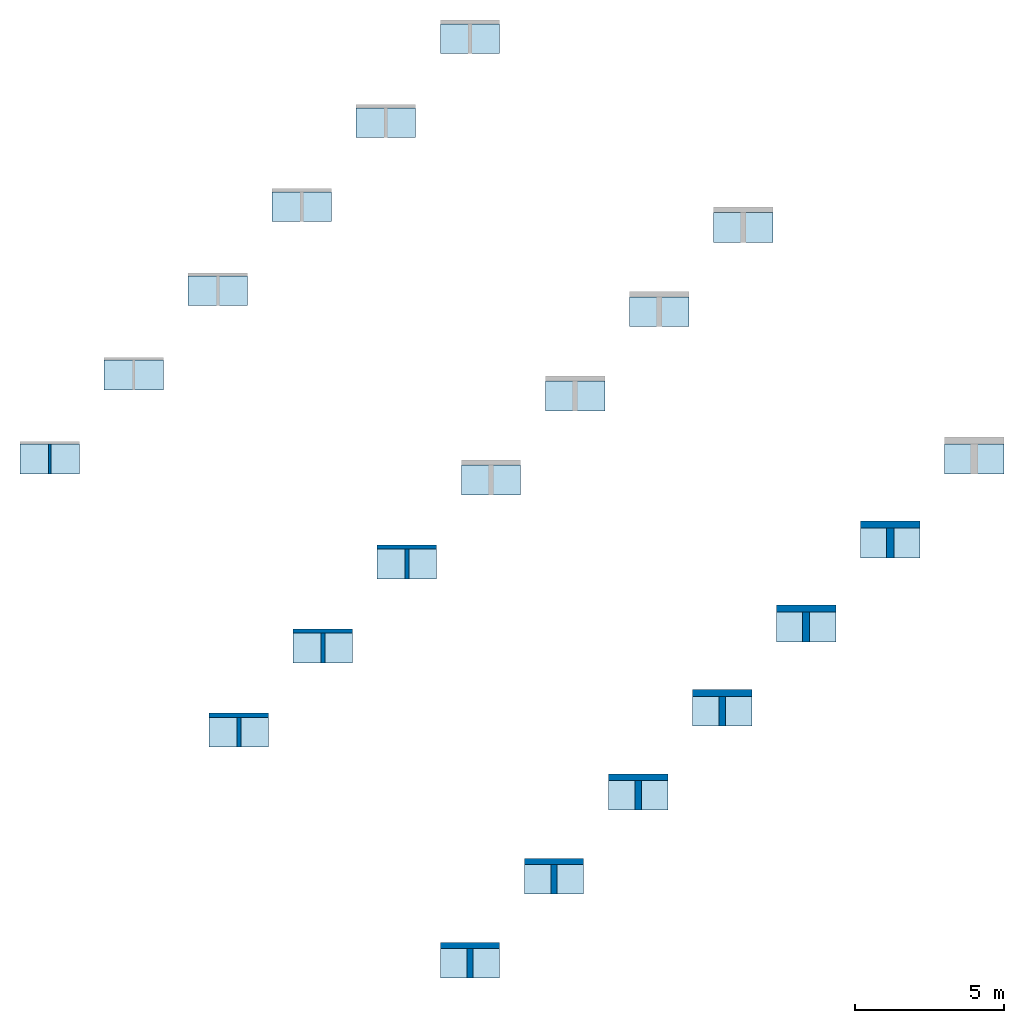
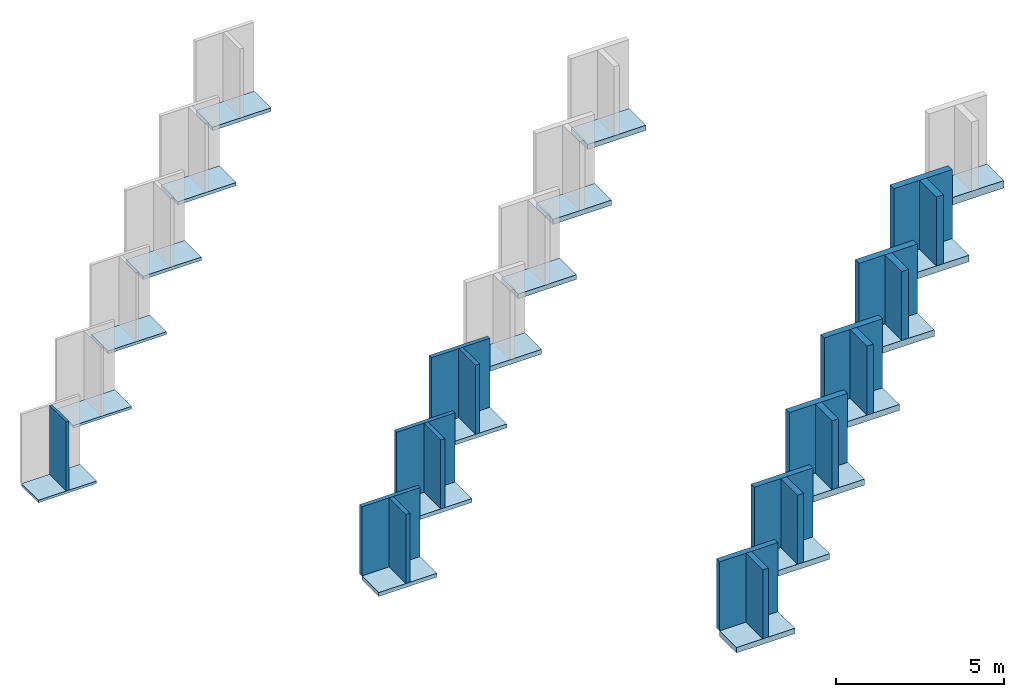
# One storey, part 1 of 2: 20 slabs, 19 walls.
"""IFC2X3 building model written with IfcOpenShell, lengths in millimetres."""

from ifc_helpers import new_model, entity, si_unit, converted_unit, derived_unit, direction, frame, frame_2d, origin, origin_2d_with_axis, place, context, subcontext, project, spatial, rectangle, extrude, material, layer, layer_set, layer_usage, type_object, element, save


model = new_model("IFC2X3")

# Units and contexts
model_context = context("Model", 3, precision=0.01, world=origin(), true_north=direction((6.12303176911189e-17, 1.0)))
context_of_model = context(None, 3, precision=0.01, world=origin(), true_north=direction((6.12303176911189e-17, 1.0)))
body_context = subcontext(model_context, "Body", "Model", "MODEL_VIEW")
ifc_project = project(units=[si_unit("LENGTHUNIT", "METRE", prefix="MILLI"), si_unit("AREAUNIT", "SQUARE_METRE"), si_unit("VOLUMEUNIT", "CUBIC_METRE"), converted_unit("PLANEANGLEUNIT", "DEGREE", entity("IfcRatioMeasure", 0.0174532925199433), si_unit("PLANEANGLEUNIT", "RADIAN"), dimensions=[0, 0, 0, 0, 0, 0, 0]), si_unit("MASSUNIT", "GRAM", prefix="KILO"), derived_unit("MASSDENSITYUNIT", [(si_unit("MASSUNIT", "GRAM", prefix="KILO"), 1), (si_unit("LENGTHUNIT", "METRE"), -3)]), si_unit("TIMEUNIT", "SECOND"), si_unit("FREQUENCYUNIT", "HERTZ"), si_unit("THERMODYNAMICTEMPERATUREUNIT", "DEGREE_CELSIUS"), derived_unit("THERMALTRANSMITTANCEUNIT", [(si_unit("MASSUNIT", "GRAM", prefix="KILO"), 1), (si_unit("THERMODYNAMICTEMPERATUREUNIT", "KELVIN"), -1), (si_unit("TIMEUNIT", "SECOND"), -3)]), derived_unit("VOLUMETRICFLOWRATEUNIT", [(si_unit("LENGTHUNIT", "METRE"), 3), (si_unit("TIMEUNIT", "SECOND"), -1)]), si_unit("ELECTRICCURRENTUNIT", "AMPERE"), si_unit("ELECTRICVOLTAGEUNIT", "VOLT"), si_unit("POWERUNIT", "WATT"), si_unit("FORCEUNIT", "NEWTON", prefix="KILO"), si_unit("ILLUMINANCEUNIT", "LUX"), si_unit("LUMINOUSFLUXUNIT", "LUMEN"), si_unit("LUMINOUSINTENSITYUNIT", "CANDELA"), derived_unit("USERDEFINED", [(si_unit("MASSUNIT", "GRAM", prefix="KILO"), -1), (si_unit("LENGTHUNIT", "METRE"), -2), (si_unit("TIMEUNIT", "SECOND"), 3), (si_unit("LUMINOUSFLUXUNIT", "LUMEN"), 1)]), derived_unit("LINEARVELOCITYUNIT", [(si_unit("LENGTHUNIT", "METRE"), 1), (si_unit("TIMEUNIT", "SECOND"), -1)]), si_unit("PRESSUREUNIT", "PASCAL"), derived_unit("USERDEFINED", [(si_unit("LENGTHUNIT", "METRE"), -2), (si_unit("MASSUNIT", "GRAM", prefix="KILO"), 1), (si_unit("TIMEUNIT", "SECOND"), -2)])], contexts=[model_context, context_of_model])

# Site, building, storey
site_placement = place(None, origin())
site = spatial("IfcSite", under=ifc_project, at=site_placement, Name="Default", CompositionType="ELEMENT")
building_placement = place(site_placement, origin())
building = spatial("IfcBuilding", under=site, at=building_placement, CompositionType="ELEMENT")
storey_placement = place(building_placement, origin())
storey = spatial("IfcBuildingStorey", under=building, at=storey_placement, Name="Begane grond", CompositionType="ELEMENT", Elevation=0.0)

# Slabs
ifc_material = material(Name="Knauf Insulation_Ecose® glaswol_naturoll 035")
ifc_layer_1 = layer(ifc_material, 90.0)
ifc_layer_set_1 = layer_set([ifc_layer_1], Name="Floor:NLRS_23_FL_Naturoll 035_90x380x7600mm")
ifc_layer_usage_1 = layer_usage(ifc_layer_set_1, "AXIS3", "POSITIVE", 0.0)
slab_type_1 = type_object("IfcSlabType", Name="Floor:NLRS_23_FL_Naturoll 035_90x380x7600mm", PredefinedType="FLOOR", material=ifc_layer_set_1)
slab_1_placement = place(storey_placement, origin())
element("IfcSlab", 1, at=slab_1_placement, inside=storey, type_object=slab_type_1, material=ifc_layer_usage_1, Name="Floor:NLRS_23_FL_Naturoll 035_90x380x7600mm", ObjectType="Floor:NLRS_23_FL_Naturoll 035_90x380x7600mm", PredefinedType="FLOOR", context=body_context, shape_type="SweptSolid", body=[
    extrude(rectangle(XDim=1000.0, YDim=2000.0, at=frame_2d((0.0, -1.70530256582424e-13), x_axis=(1.0, 0.0))), frame((-2133.09589603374, 5360.807761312, 0.0), z_axis=(0.0, 0.0, -1.0), x_axis=(0.0, 1.0, 0.0)), (0.0, 0.0, 1.0), 90.0),
])
ifc_layer_2 = layer(ifc_material, 90.0)
ifc_layer_set_2 = layer_set([ifc_layer_2], Name="Floor:NLRS_23_FL_Naturoll 035_90x580x7600mm")
ifc_layer_usage_2 = layer_usage(ifc_layer_set_2, "AXIS3", "POSITIVE", 0.0)
slab_type_2 = type_object("IfcSlabType", Name="Floor:NLRS_23_FL_Naturoll 035_90x580x7600mm", PredefinedType="FLOOR", material=ifc_layer_set_2)
slab_2_placement = place(storey_placement, origin())
element("IfcSlab", 2, at=slab_2_placement, inside=storey, type_object=slab_type_2, material=ifc_layer_usage_2, Name="Floor:NLRS_23_FL_Naturoll 035_90x580x7600mm", ObjectType="Floor:NLRS_23_FL_Naturoll 035_90x580x7600mm", PredefinedType="FLOOR", context=body_context, shape_type="SweptSolid", body=[
    extrude(rectangle(XDim=1000.0, YDim=2000.0, at=origin_2d_with_axis()), frame((695.33122871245, 8189.23488605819, 0.0), z_axis=(0.0, 0.0, -1.0), x_axis=(0.0, 1.0, 0.0)), (0.0, 0.0, 1.0), 90.0),
])
ifc_layer_3 = layer(ifc_material, 100.0)
ifc_layer_set_3 = layer_set([ifc_layer_3], Name="Floor:NLRS_23_FL_Naturoll 035_100x580x7400mm")
ifc_layer_usage_3 = layer_usage(ifc_layer_set_3, "AXIS3", "POSITIVE", 0.0)
slab_type_3 = type_object("IfcSlabType", Name="Floor:NLRS_23_FL_Naturoll 035_100x580x7400mm", PredefinedType="FLOOR", material=ifc_layer_set_3)
slab_3_placement = place(storey_placement, origin())
element("IfcSlab", 3, at=slab_3_placement, inside=storey, type_object=slab_type_3, material=ifc_layer_usage_3, Name="Floor:NLRS_23_FL_Naturoll 035_100x580x7400mm", ObjectType="Floor:NLRS_23_FL_Naturoll 035_100x580x7400mm", PredefinedType="FLOOR", context=body_context, shape_type="SweptSolid", body=[
    extrude(rectangle(XDim=1000.0, YDim=2000.0, at=frame_2d((1.08002495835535e-12, 0.0), x_axis=(1.0, 0.0))), frame((3523.75835345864, 11017.6620108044, 0.0), z_axis=(0.0, 0.0, -1.0), x_axis=(0.0, 1.0, 0.0)), (0.0, 0.0, 1.0), 100.0),
])
ifc_layer_4 = layer(ifc_material, 120.0)
ifc_layer_set_4 = layer_set([ifc_layer_4], Name="Floor:NLRS_23_FL_Naturoll 035_120x380x6200mm")
ifc_layer_usage_4 = layer_usage(ifc_layer_set_4, "AXIS3", "POSITIVE", 0.0)
slab_type_4 = type_object("IfcSlabType", Name="Floor:NLRS_23_FL_Naturoll 035_120x380x6200mm", PredefinedType="FLOOR", material=ifc_layer_set_4)
slab_4_placement = place(storey_placement, origin())
element("IfcSlab", 4, at=slab_4_placement, inside=storey, type_object=slab_type_4, material=ifc_layer_usage_4, Name="Floor:NLRS_23_FL_Naturoll 035_120x380x6200mm", ObjectType="Floor:NLRS_23_FL_Naturoll 035_120x380x6200mm", PredefinedType="FLOOR", context=body_context, shape_type="SweptSolid", body=[
    extrude(rectangle(XDim=1000.0, YDim=2000.0, at=frame_2d((-1.08002495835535e-12, 0.0), x_axis=(1.0, 0.0))), frame((6352.18547820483, 13846.0891355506, 0.0), z_axis=(0.0, 0.0, -1.0), x_axis=(0.0, 1.0, 0.0)), (0.0, 0.0, 1.0), 120.0),
])
ifc_layer_5 = layer(ifc_material, 120.0)
ifc_layer_set_5 = layer_set([ifc_layer_5], Name="Floor:NLRS_23_FL_Naturoll 035_120x580x6200mm")
ifc_layer_usage_5 = layer_usage(ifc_layer_set_5, "AXIS3", "POSITIVE", 0.0)
slab_type_5 = type_object("IfcSlabType", Name="Floor:NLRS_23_FL_Naturoll 035_120x580x6200mm", PredefinedType="FLOOR", material=ifc_layer_set_5)
slab_5_placement = place(storey_placement, origin())
element("IfcSlab", 5, at=slab_5_placement, inside=storey, type_object=slab_type_5, material=ifc_layer_usage_5, Name="Floor:NLRS_23_FL_Naturoll 035_120x580x6200mm", ObjectType="Floor:NLRS_23_FL_Naturoll 035_120x580x6200mm", PredefinedType="FLOOR", context=body_context, shape_type="SweptSolid", body=[
    extrude(rectangle(XDim=1000.0, YDim=2000.0, at=frame_2d((-1.08002495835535e-12, 5.6843418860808e-13), x_axis=(1.0, 0.0))), frame((9180.61260295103, 16674.5162602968, 0.0), z_axis=(0.0, 0.0, -1.0), x_axis=(0.0, 1.0, 0.0)), (0.0, 0.0, 1.0), 120.0),
])
ifc_layer_6 = layer(ifc_material, 130.0)
ifc_layer_set_6 = layer_set([ifc_layer_6], Name="Floor:NLRS_23_FL_Naturoll 035_130x590x5500mm")
ifc_layer_usage_6 = layer_usage(ifc_layer_set_6, "AXIS3", "POSITIVE", 0.0)
slab_type_6 = type_object("IfcSlabType", Name="Floor:NLRS_23_FL_Naturoll 035_130x590x5500mm", PredefinedType="FLOOR", material=ifc_layer_set_6)
slab_6_placement = place(storey_placement, origin())
element("IfcSlab", 6, at=slab_6_placement, inside=storey, type_object=slab_type_6, material=ifc_layer_usage_6, Name="Floor:NLRS_23_FL_Naturoll 035_130x590x5500mm", ObjectType="Floor:NLRS_23_FL_Naturoll 035_130x590x5500mm", PredefinedType="FLOOR", context=body_context, shape_type="SweptSolid", body=[
    extrude(rectangle(XDim=1000.0, YDim=2000.0, at=frame_2d((-1.08002495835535e-12, 0.0), x_axis=(1.0, 0.0))), frame((12009.0397276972, 19502.9433850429, 0.0), z_axis=(0.0, 0.0, -1.0), x_axis=(0.0, 1.0, 0.0)), (0.0, 0.0, 1.0), 130.0),
])
ifc_layer_7 = layer(ifc_material, 140.0)
ifc_layer_set_7 = layer_set([ifc_layer_7], Name="Floor:NLRS_23_FL_Naturoll 035_140x380x5300mm")
ifc_layer_usage_7 = layer_usage(ifc_layer_set_7, "AXIS3", "POSITIVE", 0.0)
slab_type_7 = type_object("IfcSlabType", Name="Floor:NLRS_23_FL_Naturoll 035_140x380x5300mm", PredefinedType="FLOOR", material=ifc_layer_set_7)
slab_7_placement = place(storey_placement, origin())
element("IfcSlab", 7, at=slab_7_placement, inside=storey, type_object=slab_type_7, material=ifc_layer_usage_7, Name="Floor:NLRS_23_FL_Naturoll 035_140x380x5300mm", ObjectType="Floor:NLRS_23_FL_Naturoll 035_140x380x5300mm", PredefinedType="FLOOR", context=body_context, shape_type="SweptSolid", body=[
    extrude(rectangle(XDim=1000.0, YDim=2000.0, at=frame_2d((0.0, 2.8421709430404e-13), x_axis=(1.0, 0.0))), frame((4230.86513464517, -3831.58039411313, 0.0), z_axis=(0.0, 0.0, -1.0), x_axis=(0.0, 1.0, 0.0)), (0.0, 0.0, 1.0), 140.0),
])
ifc_layer_8 = layer(ifc_material, 140.0)
ifc_layer_set_8 = layer_set([ifc_layer_8], Name="Floor:NLRS_23_FL_Naturoll 035_140x580x5300mm")
ifc_layer_usage_8 = layer_usage(ifc_layer_set_8, "AXIS3", "POSITIVE", 0.0)
slab_type_8 = type_object("IfcSlabType", Name="Floor:NLRS_23_FL_Naturoll 035_140x580x5300mm", PredefinedType="FLOOR", material=ifc_layer_set_8)
slab_8_placement = place(storey_placement, origin())
element("IfcSlab", 8, at=slab_8_placement, inside=storey, type_object=slab_type_8, material=ifc_layer_usage_8, Name="Floor:NLRS_23_FL_Naturoll 035_140x580x5300mm", ObjectType="Floor:NLRS_23_FL_Naturoll 035_140x580x5300mm", PredefinedType="FLOOR", context=body_context, shape_type="SweptSolid", body=[
    extrude(rectangle(XDim=1000.0, YDim=2000.0, at=origin_2d_with_axis()), frame((7059.29225939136, -1003.15326936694, 0.0), z_axis=(0.0, 0.0, -1.0), x_axis=(0.0, 1.0, 0.0)), (0.0, 0.0, 1.0), 140.0),
])
ifc_layer_9 = layer(ifc_material, 140.0)
ifc_layer_set_9 = layer_set([ifc_layer_9], Name="Floor:NLRS_23_FL_Naturoll 035_140x600x5300mm")
ifc_layer_usage_9 = layer_usage(ifc_layer_set_9, "AXIS3", "POSITIVE", 0.0)
slab_type_9 = type_object("IfcSlabType", Name="Floor:NLRS_23_FL_Naturoll 035_140x600x5300mm", PredefinedType="FLOOR", material=ifc_layer_set_9)
slab_9_placement = place(storey_placement, origin())
element("IfcSlab", 9, at=slab_9_placement, inside=storey, type_object=slab_type_9, material=ifc_layer_usage_9, Name="Floor:NLRS_23_FL_Naturoll 035_140x600x5300mm", ObjectType="Floor:NLRS_23_FL_Naturoll 035_140x600x5300mm", PredefinedType="FLOOR", context=body_context, shape_type="SweptSolid", body=[
    extrude(rectangle(XDim=1000.0, YDim=2000.0, at=frame_2d((0.0, 1.08002495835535e-12), x_axis=(1.0, 0.0))), frame((9887.71938413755, 1825.27385537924, 0.0), z_axis=(0.0, 0.0, -1.0), x_axis=(0.0, 1.0, 0.0)), (0.0, 0.0, 1.0), 140.0),
])
ifc_layer_10 = layer(ifc_material, 170.0)
ifc_layer_set_10 = layer_set([ifc_layer_10], Name="Floor:NLRS_23_FL_Naturoll 035_170x380x4350mm")
ifc_layer_usage_10 = layer_usage(ifc_layer_set_10, "AXIS3", "POSITIVE", 0.0)
slab_type_10 = type_object("IfcSlabType", Name="Floor:NLRS_23_FL_Naturoll 035_170x380x4350mm", PredefinedType="FLOOR", material=ifc_layer_set_10)
slab_10_placement = place(storey_placement, origin())
element("IfcSlab", 10, at=slab_10_placement, inside=storey, type_object=slab_type_10, material=ifc_layer_usage_10, Name="Floor:NLRS_23_FL_Naturoll 035_170x380x4350mm", ObjectType="Floor:NLRS_23_FL_Naturoll 035_170x380x4350mm", PredefinedType="FLOOR", context=body_context, shape_type="SweptSolid", body=[
    extrude(rectangle(XDim=1000.0, YDim=2000.0, at=origin_2d_with_axis()), frame((12716.1465088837, 4653.70098012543, 0.0), z_axis=(0.0, 0.0, -1.0), x_axis=(0.0, 1.0, 0.0)), (0.0, 0.0, 1.0), 170.0),
])
ifc_layer_11 = layer(ifc_material, 170.0)
ifc_layer_set_11 = layer_set([ifc_layer_11], Name="Floor:NLRS_23_FL_Naturoll 035_170x580x4350mm")
ifc_layer_usage_11 = layer_usage(ifc_layer_set_11, "AXIS3", "POSITIVE", 0.0)
slab_type_11 = type_object("IfcSlabType", Name="Floor:NLRS_23_FL_Naturoll 035_170x580x4350mm", PredefinedType="FLOOR", material=ifc_layer_set_11)
slab_11_placement = place(storey_placement, origin())
element("IfcSlab", 11, at=slab_11_placement, inside=storey, type_object=slab_type_11, material=ifc_layer_usage_11, Name="Floor:NLRS_23_FL_Naturoll 035_170x580x4350mm", ObjectType="Floor:NLRS_23_FL_Naturoll 035_170x580x4350mm", PredefinedType="FLOOR", context=body_context, shape_type="SweptSolid", body=[
    extrude(rectangle(XDim=1000.0, YDim=2000.0, at=frame_2d((0.0, -1.08002495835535e-12), x_axis=(1.0, 0.0))), frame((15544.5736336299, 7482.12810487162, 0.0), z_axis=(0.0, 0.0, -1.0), x_axis=(0.0, 1.0, 0.0)), (0.0, 0.0, 1.0), 170.0),
])
ifc_layer_12 = layer(ifc_material, 185.0)
ifc_layer_set_12 = layer_set([ifc_layer_12], Name="Floor:NLRS_23_FL_Naturoll 035_185x380x4000mm")
ifc_layer_usage_12 = layer_usage(ifc_layer_set_12, "AXIS3", "POSITIVE", 0.0)
slab_type_12 = type_object("IfcSlabType", Name="Floor:NLRS_23_FL_Naturoll 035_185x380x4000mm", PredefinedType="FLOOR", material=ifc_layer_set_12)
slab_12_placement = place(storey_placement, origin())
element("IfcSlab", 12, at=slab_12_placement, inside=storey, type_object=slab_type_12, material=ifc_layer_usage_12, Name="Floor:NLRS_23_FL_Naturoll 035_185x380x4000mm", ObjectType="Floor:NLRS_23_FL_Naturoll 035_185x380x4000mm", PredefinedType="FLOOR", context=body_context, shape_type="SweptSolid", body=[
    extrude(rectangle(XDim=1000.0, YDim=2000.0, at=frame_2d((1.08002495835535e-12, 0.0), x_axis=(1.0, 0.0))), frame((18373.0007583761, 10310.5552296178, 0.0), z_axis=(0.0, 0.0, -1.0), x_axis=(0.0, 1.0, 0.0)), (0.0, 0.0, 1.0), 185.0),
])
ifc_layer_13 = layer(ifc_material, 200.0)
ifc_layer_set_13 = layer_set([ifc_layer_13], Name="Floor:NLRS_23_FL_Naturoll 035_200x580x3700mm")
ifc_layer_usage_13 = layer_usage(ifc_layer_set_13, "AXIS3", "POSITIVE", 0.0)
slab_type_13 = type_object("IfcSlabType", Name="Floor:NLRS_23_FL_Naturoll 035_200x580x3700mm", PredefinedType="FLOOR", material=ifc_layer_set_13)
slab_13_placement = place(storey_placement, origin())
element("IfcSlab", 13, at=slab_13_placement, inside=storey, type_object=slab_type_13, material=ifc_layer_usage_13, Name="Floor:NLRS_23_FL_Naturoll 035_200x580x3700mm", ObjectType="Floor:NLRS_23_FL_Naturoll 035_200x580x3700mm", PredefinedType="FLOOR", context=body_context, shape_type="SweptSolid", body=[
    extrude(rectangle(XDim=1000.0, YDim=2000.0, at=frame_2d((0.0, -1.08002495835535e-12), x_axis=(1.0, 0.0))), frame((14837.4668524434, -8781.32786241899, 0.0), z_axis=(0.0, 0.0, -1.0), x_axis=(0.0, 1.0, 0.0)), (0.0, 0.0, 1.0), 200.0),
])
ifc_layer_14 = layer(ifc_material, 220.0)
ifc_layer_set_14 = layer_set([ifc_layer_14], Name="Floor:NLRS_23_FL_Naturoll 035_220x380x3400mm")
ifc_layer_usage_14 = layer_usage(ifc_layer_set_14, "AXIS3", "POSITIVE", 0.0)
slab_type_14 = type_object("IfcSlabType", Name="Floor:NLRS_23_FL_Naturoll 035_220x380x3400mm", PredefinedType="FLOOR", material=ifc_layer_set_14)
slab_14_placement = place(storey_placement, origin())
element("IfcSlab", 14, at=slab_14_placement, inside=storey, type_object=slab_type_14, material=ifc_layer_usage_14, Name="Floor:NLRS_23_FL_Naturoll 035_220x380x3400mm", ObjectType="Floor:NLRS_23_FL_Naturoll 035_220x380x3400mm", PredefinedType="FLOOR", context=body_context, shape_type="SweptSolid", body=[
    extrude(rectangle(XDim=1000.0, YDim=2000.0, at=frame_2d((0.0, 2.1600499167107e-12), x_axis=(1.0, 0.0))), frame((17665.8939771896, -5952.9007376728, 0.0), z_axis=(0.0, 0.0, -1.0), x_axis=(0.0, 1.0, 0.0)), (0.0, 0.0, 1.0), 220.0),
])
ifc_layer_15 = layer(ifc_material, 220.0)
ifc_layer_set_15 = layer_set([ifc_layer_15], Name="Floor:NLRS_23_FL_Naturoll 035_220x580x3400mm")
ifc_layer_usage_15 = layer_usage(ifc_layer_set_15, "AXIS3", "POSITIVE", 0.0)
slab_type_15 = type_object("IfcSlabType", Name="Floor:NLRS_23_FL_Naturoll 035_220x580x3400mm", PredefinedType="FLOOR", material=ifc_layer_set_15)
slab_15_placement = place(storey_placement, origin())
element("IfcSlab", 15, at=slab_15_placement, inside=storey, type_object=slab_type_15, material=ifc_layer_usage_15, Name="Floor:NLRS_23_FL_Naturoll 035_220x580x3400mm", ObjectType="Floor:NLRS_23_FL_Naturoll 035_220x580x3400mm", PredefinedType="FLOOR", context=body_context, shape_type="SweptSolid", body=[
    extrude(rectangle(XDim=1000.0, YDim=2000.0, at=frame_2d((0.0, -2.1600499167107e-12), x_axis=(1.0, 0.0))), frame((20494.3211019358, -3124.47361292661, 0.0), z_axis=(0.0, 0.0, -1.0), x_axis=(0.0, 1.0, 0.0)), (0.0, 0.0, 1.0), 220.0),
])
ifc_layer_16 = layer(ifc_material, 235.0)
ifc_layer_set_16 = layer_set([ifc_layer_16], Name="Floor:NLRS_23_FL_Naturoll 035_235x580x3100mm")
ifc_layer_usage_16 = layer_usage(ifc_layer_set_16, "AXIS3", "POSITIVE", 0.0)
slab_type_16 = type_object("IfcSlabType", Name="Floor:NLRS_23_FL_Naturoll 035_235x580x3100mm", PredefinedType="FLOOR", material=ifc_layer_set_16)
slab_16_placement = place(storey_placement, origin())
element("IfcSlab", 16, at=slab_16_placement, inside=storey, type_object=slab_type_16, material=ifc_layer_usage_16, Name="Floor:NLRS_23_FL_Naturoll 035_235x580x3100mm", ObjectType="Floor:NLRS_23_FL_Naturoll 035_235x580x3100mm", PredefinedType="FLOOR", context=body_context, shape_type="SweptSolid", body=[
    extrude(rectangle(XDim=1000.0, YDim=2000.0, at=frame_2d((0.0, -2.1600499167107e-12), x_axis=(1.0, 0.0))), frame((23322.748226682, -296.046488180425, 0.0), z_axis=(0.0, 0.0, -1.0), x_axis=(0.0, 1.0, 0.0)), (0.0, 0.0, 1.0), 235.0),
])
ifc_layer_17 = layer(ifc_material, 240.0)
ifc_layer_set_17 = layer_set([ifc_layer_17], Name="Floor:NLRS_23_FL_Naturoll 035_240x580x3100mm")
ifc_layer_usage_17 = layer_usage(ifc_layer_set_17, "AXIS3", "POSITIVE", 0.0)
slab_type_17 = type_object("IfcSlabType", Name="Floor:NLRS_23_FL_Naturoll 035_240x580x3100mm", PredefinedType="FLOOR", material=ifc_layer_set_17)
slab_17_placement = place(storey_placement, origin())
element("IfcSlab", 17, at=slab_17_placement, inside=storey, type_object=slab_type_17, material=ifc_layer_usage_17, Name="Floor:NLRS_23_FL_Naturoll 035_240x580x3100mm", ObjectType="Floor:NLRS_23_FL_Naturoll 035_240x580x3100mm", PredefinedType="FLOOR", context=body_context, shape_type="SweptSolid", body=[
    extrude(rectangle(XDim=1000.0, YDim=2000.0, at=frame_2d((0.0, -2.1600499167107e-12), x_axis=(1.0, 0.0))), frame((26151.1753514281, 2532.38063656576, 0.0), z_axis=(0.0, 0.0, -1.0), x_axis=(0.0, 1.0, 0.0)), (0.0, 0.0, 1.0), 240.0),
])
ifc_layer_18 = layer(ifc_material, 270.0)
ifc_layer_set_18 = layer_set([ifc_layer_18], Name="Floor:NLRS_23_FL_Naturoll 035_270x590x3100mm")
ifc_layer_usage_18 = layer_usage(ifc_layer_set_18, "AXIS3", "POSITIVE", 0.0)
slab_type_18 = type_object("IfcSlabType", Name="Floor:NLRS_23_FL_Naturoll 035_270x590x3100mm", PredefinedType="FLOOR", material=ifc_layer_set_18)
slab_18_placement = place(storey_placement, origin())
element("IfcSlab", 18, at=slab_18_placement, inside=storey, type_object=slab_type_18, material=ifc_layer_usage_18, Name="Floor:NLRS_23_FL_Naturoll 035_270x590x3100mm", ObjectType="Floor:NLRS_23_FL_Naturoll 035_270x590x3100mm", PredefinedType="FLOOR", context=body_context, shape_type="SweptSolid", body=[
    extrude(rectangle(XDim=1000.0, YDim=2000.0, at=frame_2d((0.0, 2.1600499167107e-12), x_axis=(1.0, 0.0))), frame((28979.6024761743, 5360.80776131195, 0.0), z_axis=(0.0, 0.0, -1.0), x_axis=(0.0, 1.0, 0.0)), (0.0, 0.0, 1.0), 270.0),
])
ifc_layer_19 = layer(ifc_material, 195.0)
ifc_layer_set_19 = layer_set([ifc_layer_19], Name="Floor:NLRS_23_FL_Naturoll 035_195x580x3800mm")
ifc_layer_usage_19 = layer_usage(ifc_layer_set_19, "AXIS3", "POSITIVE", 0.0)
slab_type_19 = type_object("IfcSlabType", Name="Floor:NLRS_23_FL_Naturoll 035_195x580x3800mm", PredefinedType="FLOOR", material=ifc_layer_set_19)
slab_19_placement = place(storey_placement, origin())
element("IfcSlab", 19, at=slab_19_placement, inside=storey, type_object=slab_type_19, material=ifc_layer_usage_19, Name="Floor:NLRS_23_FL_Naturoll 035_195x580x3800mm", ObjectType="Floor:NLRS_23_FL_Naturoll 035_195x580x3800mm", PredefinedType="FLOOR", context=body_context, shape_type="SweptSolid", body=[
    extrude(rectangle(XDim=1000.0, YDim=2000.0, at=frame_2d((1.08002495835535e-12, 1.08002495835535e-12), x_axis=(1.0, 0.0))), frame((12009.0397276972, -11609.7549871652, 0.0), z_axis=(0.0, 0.0, -1.0), x_axis=(0.0, 1.0, 0.0)), (0.0, 0.0, 1.0), 195.0),
])
ifc_layer_20 = layer(ifc_material, 185.0)
ifc_layer_set_20 = layer_set([ifc_layer_20], Name="Floor:NLRS_23_FL_Naturoll 035_185x580x4000mm")
ifc_layer_usage_20 = layer_usage(ifc_layer_set_20, "AXIS3", "POSITIVE", 0.0)
slab_type_20 = type_object("IfcSlabType", Name="Floor:NLRS_23_FL_Naturoll 035_185x580x4000mm", PredefinedType="FLOOR", material=ifc_layer_set_20)
slab_20_placement = place(storey_placement, origin())
element("IfcSlab", 20, at=slab_20_placement, inside=storey, type_object=slab_type_20, material=ifc_layer_usage_20, Name="Floor:NLRS_23_FL_Naturoll 035_185x580x4000mm", ObjectType="Floor:NLRS_23_FL_Naturoll 035_185x580x4000mm", PredefinedType="FLOOR", context=body_context, shape_type="SweptSolid", body=[
    extrude(rectangle(XDim=1000.0, YDim=2000.0, at=frame_2d((1.08002495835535e-12, -2.1600499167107e-12), x_axis=(1.0, 0.0))), frame((21201.4278831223, 13153.982354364, 0.0), z_axis=(0.0, 0.0, -1.0), x_axis=(0.0, 1.0, 0.0)), (0.0, 0.0, 1.0), 185.0),
])

# Walls
ifc_layer_21 = layer(ifc_material, 90.0)
ifc_layer_set_21 = layer_set([ifc_layer_21], Name="Basic Wall:NLRS_21_WA_Naturoll 035_90x380x7600mm")
ifc_layer_usage_21 = layer_usage(ifc_layer_set_21, "AXIS2", "NEGATIVE", 45.0)
wall_type_1 = type_object("IfcWallType", Name="Basic Wall:NLRS_21_WA_Naturoll 035_90x380x7600mm", PredefinedType="STANDARD", material=ifc_layer_set_21)
wall_1_placement = place(storey_placement, frame((-2133.09589603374, 5860.807761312, 0.0), z_axis=(0.0, 0.0, 1.0), x_axis=(0.0, -1.0, 0.0)))
element("IfcWallStandardCase", 21, at=wall_1_placement, inside=storey, type_object=wall_type_1, material=ifc_layer_usage_21, Name="Basic Wall:NLRS_21_WA_Naturoll 035_90x380x7600mm", ObjectType="Basic Wall:NLRS_21_WA_Naturoll 035_90x380x7600mm", context=body_context, shape_type="SweptSolid", body=[
    extrude(rectangle(XDim=1000.0, YDim=90.0000000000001, at=frame_2d((500.0, 0.0), x_axis=(-1.0, 0.0))), origin(), (0.0, 0.0, 1.0), 2500.0),
])
ifc_layer_22 = layer(ifc_material, 140.0)
ifc_layer_set_22 = layer_set([ifc_layer_22], Name="Basic Wall:NLRS_21_WA_Naturoll 035_140x380x5300mm")
ifc_layer_usage_22 = layer_usage(ifc_layer_set_22, "AXIS2", "NEGATIVE", 70.0)
wall_type_2 = type_object("IfcWallType", Name="Basic Wall:NLRS_21_WA_Naturoll 035_140x380x5300mm", PredefinedType="STANDARD", material=ifc_layer_set_22)
wall_2_placement = place(storey_placement, frame((3230.86513464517, -3261.58039411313, 0.0)))
element("IfcWallStandardCase", 22, at=wall_2_placement, inside=storey, type_object=wall_type_2, material=ifc_layer_usage_22, Name="Basic Wall:NLRS_21_WA_Naturoll 035_140x380x5300mm", ObjectType="Basic Wall:NLRS_21_WA_Naturoll 035_140x380x5300mm", context=body_context, shape_type="SweptSolid", body=[
    extrude(rectangle(XDim=2000.0, YDim=140.0, at=frame_2d((1000.0, 0.0), x_axis=(-1.0, 0.0))), origin(), (0.0, 0.0, 1.0), 2500.0),
])
ifc_layer_usage_23 = layer_usage(ifc_layer_set_22, "AXIS2", "NEGATIVE", 70.0)
wall_3_placement = place(storey_placement, frame((4230.86513464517, -3331.58039411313, 0.0), z_axis=(0.0, 0.0, 1.0), x_axis=(0.0, -1.0, 0.0)))
element("IfcWallStandardCase", 23, at=wall_3_placement, inside=storey, type_object=wall_type_2, material=ifc_layer_usage_23, Name="Basic Wall:NLRS_21_WA_Naturoll 035_140x380x5300mm", ObjectType="Basic Wall:NLRS_21_WA_Naturoll 035_140x380x5300mm", context=body_context, shape_type="SweptSolid", body=[
    extrude(rectangle(XDim=1000.0, YDim=140.0, at=frame_2d((500.0, 0.0), x_axis=(-1.0, 0.0))), origin(), (0.0, 0.0, 1.0), 2500.0),
])
ifc_layer_23 = layer(ifc_material, 140.0)
ifc_layer_set_23 = layer_set([ifc_layer_23], Name="Basic Wall:NLRS_21_WA_Naturoll 035_140x580x5300mm")
ifc_layer_usage_24 = layer_usage(ifc_layer_set_23, "AXIS2", "NEGATIVE", 70.0)
wall_type_3 = type_object("IfcWallType", Name="Basic Wall:NLRS_21_WA_Naturoll 035_140x580x5300mm", PredefinedType="STANDARD", material=ifc_layer_set_23)
wall_4_placement = place(storey_placement, frame((6059.29225939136, -433.153269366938, 0.0)))
element("IfcWallStandardCase", 24, at=wall_4_placement, inside=storey, type_object=wall_type_3, material=ifc_layer_usage_24, Name="Basic Wall:NLRS_21_WA_Naturoll 035_140x580x5300mm", ObjectType="Basic Wall:NLRS_21_WA_Naturoll 035_140x580x5300mm", context=body_context, shape_type="SweptSolid", body=[
    extrude(rectangle(XDim=2000.0, YDim=140.0, at=frame_2d((1000.0, 0.0), x_axis=(-1.0, 0.0))), origin(), (0.0, 0.0, 1.0), 2500.0),
])
ifc_layer_usage_25 = layer_usage(ifc_layer_set_23, "AXIS2", "NEGATIVE", 70.0)
wall_5_placement = place(storey_placement, frame((7059.29225939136, -503.153269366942, 0.0), z_axis=(0.0, 0.0, 1.0), x_axis=(0.0, -1.0, 0.0)))
element("IfcWallStandardCase", 25, at=wall_5_placement, inside=storey, type_object=wall_type_3, material=ifc_layer_usage_25, Name="Basic Wall:NLRS_21_WA_Naturoll 035_140x580x5300mm", ObjectType="Basic Wall:NLRS_21_WA_Naturoll 035_140x580x5300mm", context=body_context, shape_type="SweptSolid", body=[
    extrude(rectangle(XDim=1000.0, YDim=140.000000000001, at=frame_2d((500.0, 2.70006239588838e-13), x_axis=(-1.0, 0.0))), origin(), (0.0, 0.0, 1.0), 2500.0),
])
ifc_layer_24 = layer(ifc_material, 140.0)
ifc_layer_set_24 = layer_set([ifc_layer_24], Name="Basic Wall:NLRS_21_WA_Naturoll 035_140x600x5300mm")
ifc_layer_usage_26 = layer_usage(ifc_layer_set_24, "AXIS2", "NEGATIVE", 70.0)
wall_type_4 = type_object("IfcWallType", Name="Basic Wall:NLRS_21_WA_Naturoll 035_140x600x5300mm", PredefinedType="STANDARD", material=ifc_layer_set_24)
wall_6_placement = place(storey_placement, frame((8887.71938413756, 2395.27385537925, 0.0)))
element("IfcWallStandardCase", 26, at=wall_6_placement, inside=storey, type_object=wall_type_4, material=ifc_layer_usage_26, Name="Basic Wall:NLRS_21_WA_Naturoll 035_140x600x5300mm", ObjectType="Basic Wall:NLRS_21_WA_Naturoll 035_140x600x5300mm", context=body_context, shape_type="SweptSolid", body=[
    extrude(rectangle(XDim=2000.0, YDim=140.0, at=frame_2d((1000.0, -1.35003119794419e-13), x_axis=(-1.0, 0.0))), origin(), (0.0, 0.0, 1.0), 2500.0),
])
ifc_layer_usage_27 = layer_usage(ifc_layer_set_24, "AXIS2", "NEGATIVE", 70.0)
wall_7_placement = place(storey_placement, frame((9887.71938413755, 2325.27385537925, 0.0), z_axis=(0.0, 0.0, 1.0), x_axis=(0.0, -1.0, 0.0)))
element("IfcWallStandardCase", 27, at=wall_7_placement, inside=storey, type_object=wall_type_4, material=ifc_layer_usage_27, Name="Basic Wall:NLRS_21_WA_Naturoll 035_140x600x5300mm", ObjectType="Basic Wall:NLRS_21_WA_Naturoll 035_140x600x5300mm", context=body_context, shape_type="SweptSolid", body=[
    extrude(rectangle(XDim=1000.0, YDim=139.999999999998, at=frame_2d((500.0, -2.70006239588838e-13), x_axis=(-1.0, 0.0))), origin(), (0.0, 0.0, 1.0), 2500.0),
])
ifc_layer_25 = layer(ifc_material, 200.0)
ifc_layer_set_25 = layer_set([ifc_layer_25], Name="Basic Wall:NLRS_21_WA_Naturoll 035_200x580x3700mm")
ifc_layer_usage_28 = layer_usage(ifc_layer_set_25, "AXIS2", "NEGATIVE", 100.0)
wall_type_5 = type_object("IfcWallType", Name="Basic Wall:NLRS_21_WA_Naturoll 035_200x580x3700mm", PredefinedType="STANDARD", material=ifc_layer_set_25)
wall_8_placement = place(storey_placement, frame((13837.4668524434, -8181.32786241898, 0.0)))
element("IfcWallStandardCase", 28, at=wall_8_placement, inside=storey, type_object=wall_type_5, material=ifc_layer_usage_28, Name="Basic Wall:NLRS_21_WA_Naturoll 035_200x580x3700mm", ObjectType="Basic Wall:NLRS_21_WA_Naturoll 035_200x580x3700mm", context=body_context, shape_type="SweptSolid", body=[
    extrude(rectangle(XDim=2000.0, YDim=200.0, at=frame_2d((1000.0, 0.0), x_axis=(-1.0, 0.0))), origin(), (0.0, 0.0, 1.0), 2500.0),
])
ifc_layer_usage_29 = layer_usage(ifc_layer_set_25, "AXIS2", "NEGATIVE", 100.0)
wall_9_placement = place(storey_placement, frame((14837.4668524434, -8281.32786241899, 0.0), z_axis=(0.0, 0.0, 1.0), x_axis=(0.0, -1.0, 0.0)))
element("IfcWallStandardCase", 29, at=wall_9_placement, inside=storey, type_object=wall_type_5, material=ifc_layer_usage_29, Name="Basic Wall:NLRS_21_WA_Naturoll 035_200x580x3700mm", ObjectType="Basic Wall:NLRS_21_WA_Naturoll 035_200x580x3700mm", context=body_context, shape_type="SweptSolid", body=[
    extrude(rectangle(XDim=1000.0, YDim=200.000000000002, at=frame_2d((500.0, -2.70006239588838e-13), x_axis=(-1.0, 0.0))), origin(), (0.0, 0.0, 1.0), 2500.0),
])
ifc_layer_26 = layer(ifc_material, 220.0)
ifc_layer_set_26 = layer_set([ifc_layer_26], Name="Basic Wall:NLRS_21_WA_Naturoll 035_220x380x3400mm")
ifc_layer_usage_30 = layer_usage(ifc_layer_set_26, "AXIS2", "NEGATIVE", 110.0)
wall_type_6 = type_object("IfcWallType", Name="Basic Wall:NLRS_21_WA_Naturoll 035_220x380x3400mm", PredefinedType="STANDARD", material=ifc_layer_set_26)
wall_10_placement = place(storey_placement, frame((16665.8939771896, -5342.9007376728, 0.0)))
element("IfcWallStandardCase", 30, at=wall_10_placement, inside=storey, type_object=wall_type_6, material=ifc_layer_usage_30, Name="Basic Wall:NLRS_21_WA_Naturoll 035_220x380x3400mm", ObjectType="Basic Wall:NLRS_21_WA_Naturoll 035_220x380x3400mm", context=body_context, shape_type="SweptSolid", body=[
    extrude(rectangle(XDim=2000.0, YDim=220.0, at=frame_2d((1000.0, 0.0), x_axis=(-1.0, 0.0))), origin(), (0.0, 0.0, 1.0), 2500.0),
])
ifc_layer_usage_31 = layer_usage(ifc_layer_set_26, "AXIS2", "NEGATIVE", 110.0)
wall_11_placement = place(storey_placement, frame((17665.8939771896, -5452.9007376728, 0.0), z_axis=(0.0, 0.0, 1.0), x_axis=(0.0, -1.0, 0.0)))
element("IfcWallStandardCase", 31, at=wall_11_placement, inside=storey, type_object=wall_type_6, material=ifc_layer_usage_31, Name="Basic Wall:NLRS_21_WA_Naturoll 035_220x380x3400mm", ObjectType="Basic Wall:NLRS_21_WA_Naturoll 035_220x380x3400mm", context=body_context, shape_type="SweptSolid", body=[
    extrude(rectangle(XDim=1000.0, YDim=220.000000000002, at=frame_2d((500.0, -2.70006239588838e-13), x_axis=(-1.0, 0.0))), origin(), (0.0, 0.0, 1.0), 2500.0),
])
ifc_layer_27 = layer(ifc_material, 220.0)
ifc_layer_set_27 = layer_set([ifc_layer_27], Name="Basic Wall:NLRS_21_WA_Naturoll 035_220x580x3400mm")
ifc_layer_usage_32 = layer_usage(ifc_layer_set_27, "AXIS2", "NEGATIVE", 110.0)
wall_type_7 = type_object("IfcWallType", Name="Basic Wall:NLRS_21_WA_Naturoll 035_220x580x3400mm", PredefinedType="STANDARD", material=ifc_layer_set_27)
wall_12_placement = place(storey_placement, frame((19494.3211019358, -2514.47361292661, 0.0)))
element("IfcWallStandardCase", 32, at=wall_12_placement, inside=storey, type_object=wall_type_7, material=ifc_layer_usage_32, Name="Basic Wall:NLRS_21_WA_Naturoll 035_220x580x3400mm", ObjectType="Basic Wall:NLRS_21_WA_Naturoll 035_220x580x3400mm", context=body_context, shape_type="SweptSolid", body=[
    extrude(rectangle(XDim=2000.0, YDim=220.0, at=frame_2d((1000.0, 0.0), x_axis=(-1.0, 0.0))), origin(), (0.0, 0.0, 1.0), 2500.0),
])
ifc_layer_usage_33 = layer_usage(ifc_layer_set_27, "AXIS2", "NEGATIVE", 110.0)
wall_13_placement = place(storey_placement, frame((20494.3211019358, -2624.47361292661, 0.0), z_axis=(0.0, 0.0, 1.0), x_axis=(0.0, -1.0, 0.0)))
element("IfcWallStandardCase", 33, at=wall_13_placement, inside=storey, type_object=wall_type_7, material=ifc_layer_usage_33, Name="Basic Wall:NLRS_21_WA_Naturoll 035_220x580x3400mm", ObjectType="Basic Wall:NLRS_21_WA_Naturoll 035_220x580x3400mm", context=body_context, shape_type="SweptSolid", body=[
    extrude(rectangle(XDim=1000.0, YDim=220.000000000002, at=frame_2d((500.0, 8.10018718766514e-13), x_axis=(-1.0, 0.0))), origin(), (0.0, 0.0, 1.0), 2500.0),
])
ifc_layer_28 = layer(ifc_material, 235.0)
ifc_layer_set_28 = layer_set([ifc_layer_28], Name="Basic Wall:NLRS_21_WA_Naturoll 035_235x580x3100mm")
ifc_layer_usage_34 = layer_usage(ifc_layer_set_28, "AXIS2", "NEGATIVE", 117.5)
wall_type_8 = type_object("IfcWallType", Name="Basic Wall:NLRS_21_WA_Naturoll 035_235x580x3100mm", PredefinedType="STANDARD", material=ifc_layer_set_28)
wall_14_placement = place(storey_placement, frame((22322.748226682, 321.453511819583, 0.0)))
element("IfcWallStandardCase", 34, at=wall_14_placement, inside=storey, type_object=wall_type_8, material=ifc_layer_usage_34, Name="Basic Wall:NLRS_21_WA_Naturoll 035_235x580x3100mm", ObjectType="Basic Wall:NLRS_21_WA_Naturoll 035_235x580x3100mm", context=body_context, shape_type="SweptSolid", body=[
    extrude(rectangle(XDim=2000.0, YDim=235.0, at=frame_2d((1000.0, 0.0), x_axis=(-1.0, 0.0))), origin(), (0.0, 0.0, 1.0), 2500.0),
])
ifc_layer_usage_35 = layer_usage(ifc_layer_set_28, "AXIS2", "NEGATIVE", 117.5)
wall_15_placement = place(storey_placement, frame((23322.748226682, 203.953511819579, 0.0), z_axis=(0.0, 0.0, 1.0), x_axis=(0.0, -1.0, 0.0)))
element("IfcWallStandardCase", 35, at=wall_15_placement, inside=storey, type_object=wall_type_8, material=ifc_layer_usage_35, Name="Basic Wall:NLRS_21_WA_Naturoll 035_235x580x3100mm", ObjectType="Basic Wall:NLRS_21_WA_Naturoll 035_235x580x3100mm", context=body_context, shape_type="SweptSolid", body=[
    extrude(rectangle(XDim=1000.0, YDim=234.999999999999, at=frame_2d((500.0, 8.10018718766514e-13), x_axis=(-1.0, 0.0))), origin(), (0.0, 0.0, 1.0), 2500.0),
])
ifc_layer_29 = layer(ifc_material, 240.0)
ifc_layer_set_29 = layer_set([ifc_layer_29], Name="Basic Wall:NLRS_21_WA_Naturoll 035_240x580x3100mm")
ifc_layer_usage_36 = layer_usage(ifc_layer_set_29, "AXIS2", "NEGATIVE", 120.0)
wall_type_9 = type_object("IfcWallType", Name="Basic Wall:NLRS_21_WA_Naturoll 035_240x580x3100mm", PredefinedType="STANDARD", material=ifc_layer_set_29)
wall_16_placement = place(storey_placement, frame((25151.1753514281, 3152.38063656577, 0.0)))
element("IfcWallStandardCase", 36, at=wall_16_placement, inside=storey, type_object=wall_type_9, material=ifc_layer_usage_36, Name="Basic Wall:NLRS_21_WA_Naturoll 035_240x580x3100mm", ObjectType="Basic Wall:NLRS_21_WA_Naturoll 035_240x580x3100mm", context=body_context, shape_type="SweptSolid", body=[
    extrude(rectangle(XDim=2000.0, YDim=240.0, at=frame_2d((1000.0, 0.0), x_axis=(-1.0, 0.0))), origin(), (0.0, 0.0, 1.0), 2500.0),
])
ifc_layer_usage_37 = layer_usage(ifc_layer_set_29, "AXIS2", "NEGATIVE", 120.0)
wall_17_placement = place(storey_placement, frame((26151.1753514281, 3032.38063656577, 0.0), z_axis=(0.0, 0.0, 1.0), x_axis=(0.0, -1.0, 0.0)))
element("IfcWallStandardCase", 37, at=wall_17_placement, inside=storey, type_object=wall_type_9, material=ifc_layer_usage_37, Name="Basic Wall:NLRS_21_WA_Naturoll 035_240x580x3100mm", ObjectType="Basic Wall:NLRS_21_WA_Naturoll 035_240x580x3100mm", context=body_context, shape_type="SweptSolid", body=[
    extrude(rectangle(XDim=1000.0, YDim=239.999999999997, at=frame_2d((500.0, 8.10018718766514e-13), x_axis=(-1.0, 0.0))), origin(), (0.0, 0.0, 1.0), 2500.0),
])
ifc_layer_30 = layer(ifc_material, 195.0)
ifc_layer_set_30 = layer_set([ifc_layer_30], Name="Basic Wall:NLRS_21_WA_Naturoll 035_195x580x3800mm")
ifc_layer_usage_38 = layer_usage(ifc_layer_set_30, "AXIS2", "NEGATIVE", 97.5)
wall_type_10 = type_object("IfcWallType", Name="Basic Wall:NLRS_21_WA_Naturoll 035_195x580x3800mm", PredefinedType="STANDARD", material=ifc_layer_set_30)
wall_18_placement = place(storey_placement, frame((11009.0397276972, -11012.2549871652, 0.0)))
element("IfcWallStandardCase", 38, at=wall_18_placement, inside=storey, type_object=wall_type_10, material=ifc_layer_usage_38, Name="Basic Wall:NLRS_21_WA_Naturoll 035_195x580x3800mm", ObjectType="Basic Wall:NLRS_21_WA_Naturoll 035_195x580x3800mm", context=body_context, shape_type="SweptSolid", body=[
    extrude(rectangle(XDim=2000.0, YDim=194.999999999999, at=frame_2d((1000.0, 0.0), x_axis=(-1.0, 0.0))), origin(), (0.0, 0.0, 1.0), 2500.0),
])
ifc_layer_usage_39 = layer_usage(ifc_layer_set_30, "AXIS2", "NEGATIVE", 97.5)
wall_19_placement = place(storey_placement, frame((12009.0397276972, -11109.7549871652, 0.0), z_axis=(0.0, 0.0, 1.0), x_axis=(0.0, -1.0, 0.0)))
element("IfcWallStandardCase", 39, at=wall_19_placement, inside=storey, type_object=wall_type_10, material=ifc_layer_usage_39, Name="Basic Wall:NLRS_21_WA_Naturoll 035_195x580x3800mm", ObjectType="Basic Wall:NLRS_21_WA_Naturoll 035_195x580x3800mm", context=body_context, shape_type="SweptSolid", body=[
    extrude(rectangle(XDim=999.999999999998, YDim=194.999999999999, at=frame_2d((499.999999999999, -2.70006239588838e-13), x_axis=(-1.0, 0.0))), origin(), (0.0, 0.0, 1.0), 2500.0),
])

save(model, "model.ifc")
